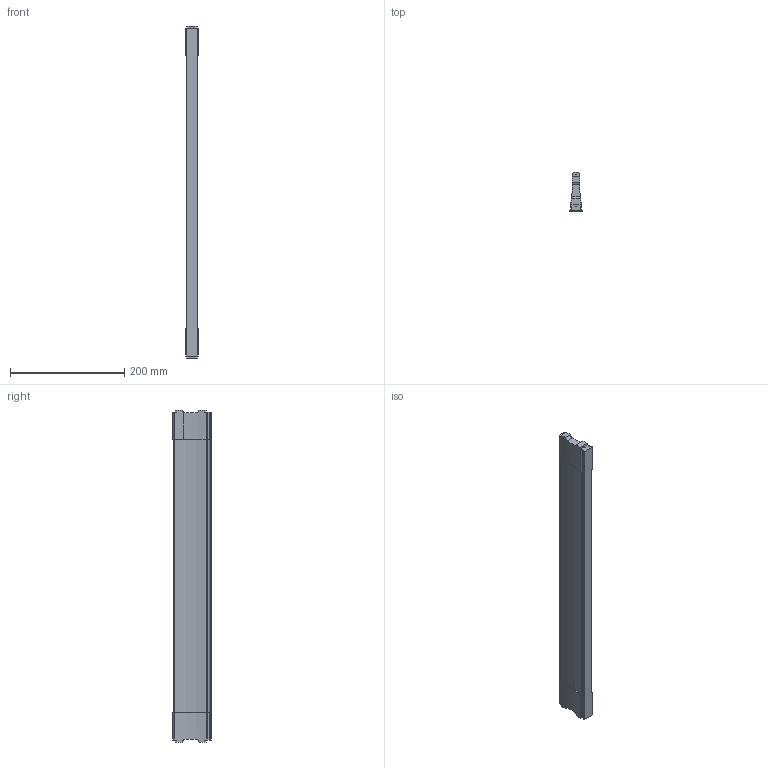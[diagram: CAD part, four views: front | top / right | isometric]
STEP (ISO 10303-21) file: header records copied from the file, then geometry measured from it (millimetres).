
FILE_DESCRIPTION (( 'STEP AP214' ), '1' );
FILE_NAME ('Traverse NOVAPro NL600 Mass X575,4_montiert.step', '2010-09-21T13:17:03', ( 'grass' ), ( '' ), 'SwSTEP 2.0', 'SolidWorks 2010', '' );
FILE_SCHEMA (( 'AUTOMOTIVE_DESIGN' ));
Length unit declared in the file: millimetre
Products named in the file (1): Traverse NOVAPro NL600 Mass X575,4_montiert
Bounding box: 21.4 x 67.5 x 581 mm (x, y, z)
Volume: 483149.2 mm3; surface area: 100981.2 mm2
Topology: 1 solids, 1 shells, 125 faces, 369 edges, 246 vertices
Faces by surface type: cylinder 68, plane 57
Entity records: 4377 total; most frequent: CARTESIAN_POINT 879, DIRECTION 753, ORIENTED_EDGE 738, EDGE_CURVE 369, AXIS2_PLACEMENT_3D 268, VERTEX_POINT 246, VECTOR 217, LINE 217
